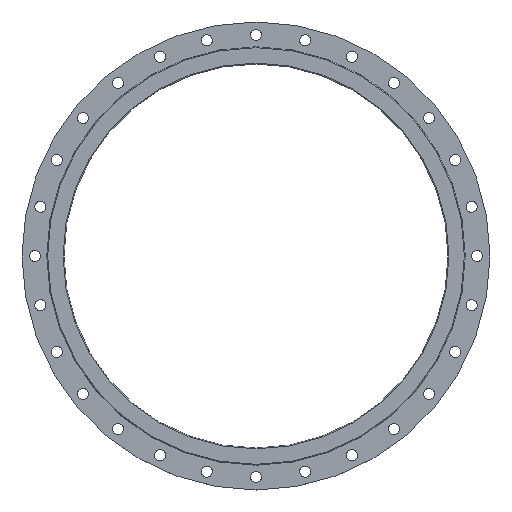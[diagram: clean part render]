
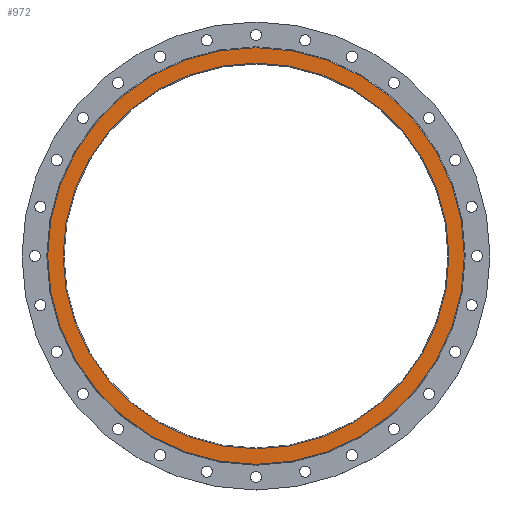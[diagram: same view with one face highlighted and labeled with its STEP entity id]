
A CAD part, top view. The second image highlights one B-rep face of the part: STEP entity #972.
In plain terms, the highlighted planar face has unit normal (0, 0, 1).
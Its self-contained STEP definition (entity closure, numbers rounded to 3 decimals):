
#49=FACE_BOUND('',#185,.T.);
#81=PLANE('',#1126);
#116=FACE_OUTER_BOUND('',#184,.T.);
#184=EDGE_LOOP('',(#849,#850));
#185=EDGE_LOOP('',(#851));
#376=CIRCLE('',#1117,731.);
#377=CIRCLE('',#1118,731.);
#378=CIRCLE('',#1120,676.8);
#481=VERTEX_POINT('',#1701);
#482=VERTEX_POINT('',#1702);
#483=VERTEX_POINT('',#1707);
#612=EDGE_CURVE('',#481,#482,#376,.T.);
#613=EDGE_CURVE('',#482,#481,#377,.T.);
#615=EDGE_CURVE('',#483,#483,#378,.T.);
#849=ORIENTED_EDGE('',*,*,#612,.T.);
#850=ORIENTED_EDGE('',*,*,#613,.T.);
#851=ORIENTED_EDGE('',*,*,#615,.F.);
#972=ADVANCED_FACE('',(#116,#49),#81,.T.);
#1117=AXIS2_PLACEMENT_3D('',#1703,#1409,#1410);
#1118=AXIS2_PLACEMENT_3D('',#1704,#1411,#1412);
#1120=AXIS2_PLACEMENT_3D('',#1708,#1416,#1417);
#1126=AXIS2_PLACEMENT_3D('',#1718,#1429,#1430);
#1409=DIRECTION('center_axis',(0.,0.,1.));
#1410=DIRECTION('ref_axis',(1.,0.,0.));
#1411=DIRECTION('center_axis',(0.,0.,1.));
#1412=DIRECTION('ref_axis',(1.,0.,0.));
#1416=DIRECTION('center_axis',(0.,0.,1.));
#1417=DIRECTION('ref_axis',(-1.,0.,0.));
#1429=DIRECTION('center_axis',(0.,0.,1.));
#1430=DIRECTION('ref_axis',(1.,0.,0.));
#1701=CARTESIAN_POINT('',(731.,0.,0.));
#1702=CARTESIAN_POINT('',(-731.,0.,0.));
#1703=CARTESIAN_POINT('Origin',(0.,0.,0.));
#1704=CARTESIAN_POINT('Origin',(0.,0.,0.));
#1707=CARTESIAN_POINT('',(676.8,0.,0.));
#1708=CARTESIAN_POINT('Origin',(0.,0.,0.));
#1718=CARTESIAN_POINT('Origin',(0.,0.,0.));
